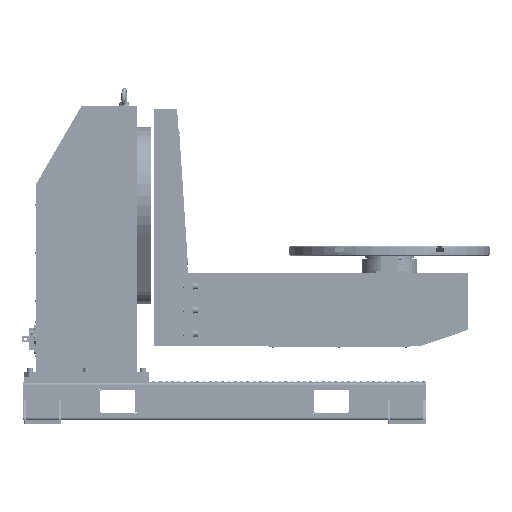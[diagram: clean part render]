
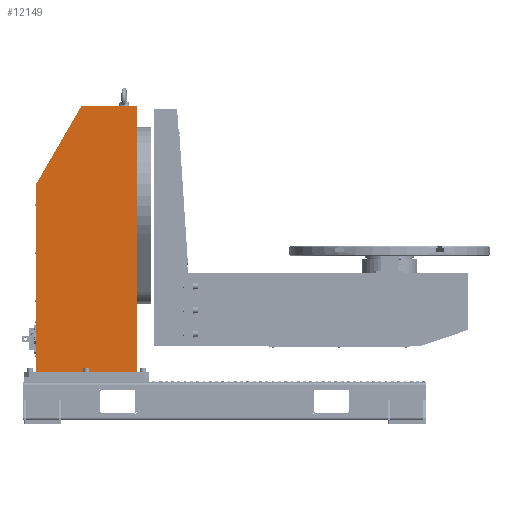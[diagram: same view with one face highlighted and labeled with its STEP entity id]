
A CAD part, front view. The second image highlights one B-rep face of the part: STEP entity #12149.
In plain terms, the highlighted planar face has unit normal (0, -1, 0) as drawn and (1, 0, 0) by its records, which use the part's own axes.
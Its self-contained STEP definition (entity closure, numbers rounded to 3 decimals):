
#1191 = ORIENTED_EDGE ( 'NONE', *, *, #33930, .T. ) ;
#4438 = AXIS2_PLACEMENT_3D ( 'NONE', #86620, #130707, #97735 ) ;
#5014 = CARTESIAN_POINT ( 'NONE',  ( 325., 200., 1070. ) ) ;
#7690 = LINE ( 'NONE', #5014, #122370 ) ;
#8861 = PLANE ( 'NONE',  #4438 ) ;
#12149 = ADVANCED_FACE ( 'NONE', ( #107054 ), #8861, .F. ) ;
#13450 = LINE ( 'NONE', #92766, #69026 ) ;
#19512 = CARTESIAN_POINT ( 'NONE',  ( 325., -20., 1080. ) ) ;
#25909 = EDGE_LOOP ( 'NONE', ( #116540, #90337, #36430, #1191, #29563 ) ) ;
#29563 = ORIENTED_EDGE ( 'NONE', *, *, #94373, .F. ) ;
#33930 = EDGE_CURVE ( 'NONE', #143195, #142821, #13450, .T. ) ;
#36430 = ORIENTED_EDGE ( 'NONE', *, *, #105473, .F. ) ;
#36851 = VERTEX_POINT ( 'NONE', #72037 ) ;
#38976 = VERTEX_POINT ( 'NONE', #55969 ) ;
#39144 = DIRECTION ( 'NONE',  ( 0., 0., 1. ) ) ;
#39279 = DIRECTION ( 'NONE',  ( 0., -0.502, -0.865 ) ) ;
#45129 = LINE ( 'NONE', #128036, #86899 ) ;
#55969 = CARTESIAN_POINT ( 'NONE',  ( 325., -200., 770. ) ) ;
#57356 = VECTOR ( 'NONE', #130874, 1000. ) ;
#60938 = LINE ( 'NONE', #64411, #57356 ) ;
#62986 = EDGE_CURVE ( 'NONE', #126484, #36851, #60938, .T. ) ;
#63321 = CARTESIAN_POINT ( 'NONE',  ( 325., 200., 20. ) ) ;
#64411 = CARTESIAN_POINT ( 'NONE',  ( 325., 200., 1080. ) ) ;
#69026 = VECTOR ( 'NONE', #103862, 1000. ) ;
#72037 = CARTESIAN_POINT ( 'NONE',  ( 325., 200., 1080. ) ) ;
#72846 = CARTESIAN_POINT ( 'NONE',  ( 325., -200., 20. ) ) ;
#75269 = LINE ( 'NONE', #105826, #134242 ) ;
#83224 = DIRECTION ( 'NONE',  ( 0., 0., -1. ) ) ;
#86620 = CARTESIAN_POINT ( 'NONE',  ( 325., 200., 1070. ) ) ;
#86899 = VECTOR ( 'NONE', #39144, 1000. ) ;
#90337 = ORIENTED_EDGE ( 'NONE', *, *, #103549, .T. ) ;
#92766 = CARTESIAN_POINT ( 'NONE',  ( 325., 200., 20. ) ) ;
#94373 = EDGE_CURVE ( 'NONE', #36851, #142821, #7690, .T. ) ;
#97735 = DIRECTION ( 'NONE',  ( 0., 0., 1. ) ) ;
#103549 = EDGE_CURVE ( 'NONE', #126484, #38976, #75269, .T. ) ;
#103862 = DIRECTION ( 'NONE',  ( 0., 1., 0. ) ) ;
#105473 = EDGE_CURVE ( 'NONE', #143195, #38976, #45129, .T. ) ;
#105826 = CARTESIAN_POINT ( 'NONE',  ( 325., -200., 770. ) ) ;
#107054 = FACE_OUTER_BOUND ( 'NONE', #25909, .T. ) ;
#116540 = ORIENTED_EDGE ( 'NONE', *, *, #62986, .F. ) ;
#122370 = VECTOR ( 'NONE', #83224, 1000. ) ;
#126484 = VERTEX_POINT ( 'NONE', #19512 ) ;
#128036 = CARTESIAN_POINT ( 'NONE',  ( 325., -200., 20. ) ) ;
#130707 = DIRECTION ( 'NONE',  ( -1., 0., 0. ) ) ;
#130874 = DIRECTION ( 'NONE',  ( 0., 1., 0. ) ) ;
#134242 = VECTOR ( 'NONE', #39279, 1000. ) ;
#142821 = VERTEX_POINT ( 'NONE', #63321 ) ;
#143195 = VERTEX_POINT ( 'NONE', #72846 ) ;
